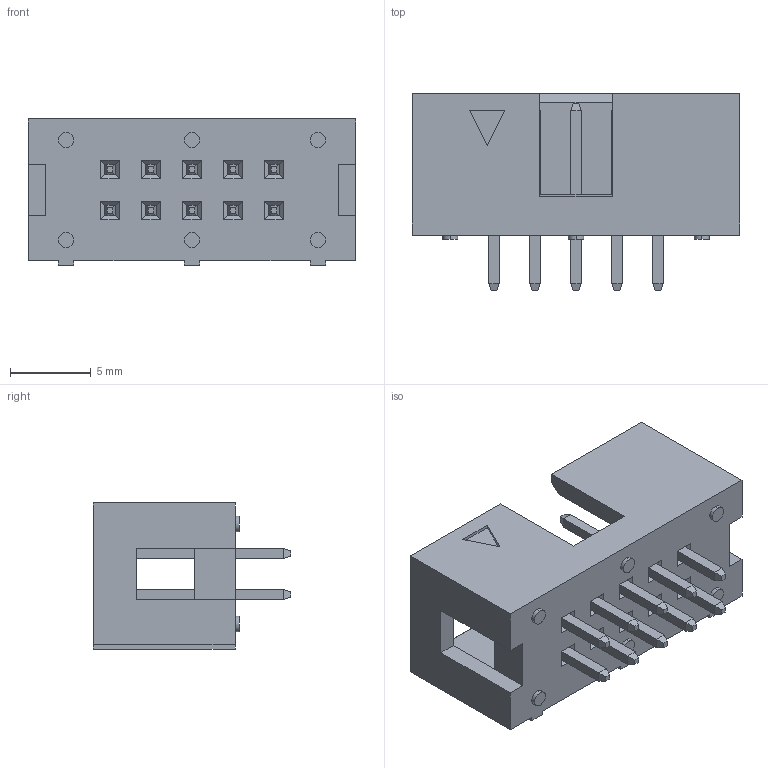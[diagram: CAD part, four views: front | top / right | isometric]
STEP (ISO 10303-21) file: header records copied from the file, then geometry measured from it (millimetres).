
FILE_DESCRIPTION (( 'STEP AP214' ), '1' );
FILE_NAME ('3012-A10G00SBA-1091120.STEP', '2020-11-20T05:52:57', ( '' ), ( '' ), 'SwSTEP 2.0', 'SolidWorks 2019', '' );
FILE_SCHEMA (( 'AUTOMOTIVE_DESIGN' ));
Length unit declared in the file: millimetre
Products named in the file (3): Pin; Housing; 3012-A10G00SBA-1091120
Assembly tree (11 placements, depth 2):
  3012-A10G00SBA-1091120
    Housing
    Pin  x10
Bounding box: 20.3 x 12.25 x 9.05 mm (x, y, z)
Volume: 798.1 mm3; surface area: 1470.6 mm2
Topology: 11 solids, 11 shells, 283 faces, 644 edges, 386 vertices
Faces by surface type: plane 271, cylinder 12
Entity records: 4756 total; most frequent: CARTESIAN_POINT 805, ORIENTED_EDGE 784, DIRECTION 758, EDGE_CURVE 392, LINE 368, VECTOR 368, VERTEX_POINT 242, AXIS2_PLACEMENT_3D 195
